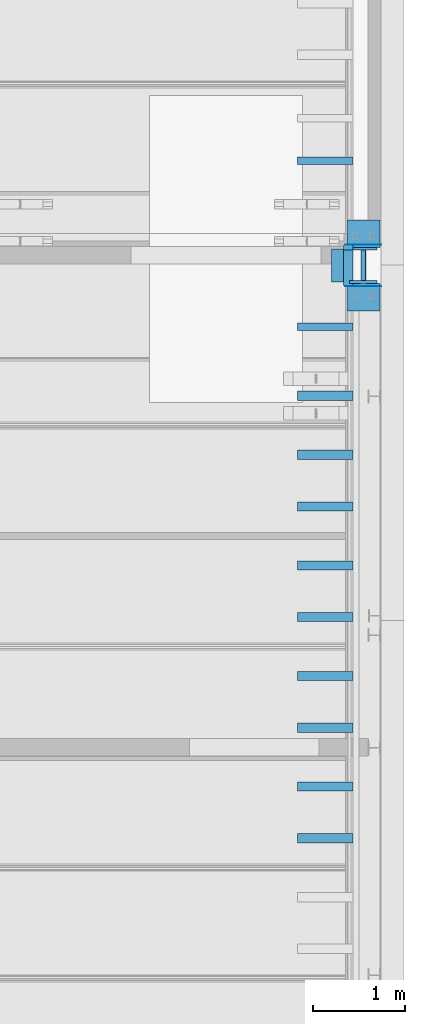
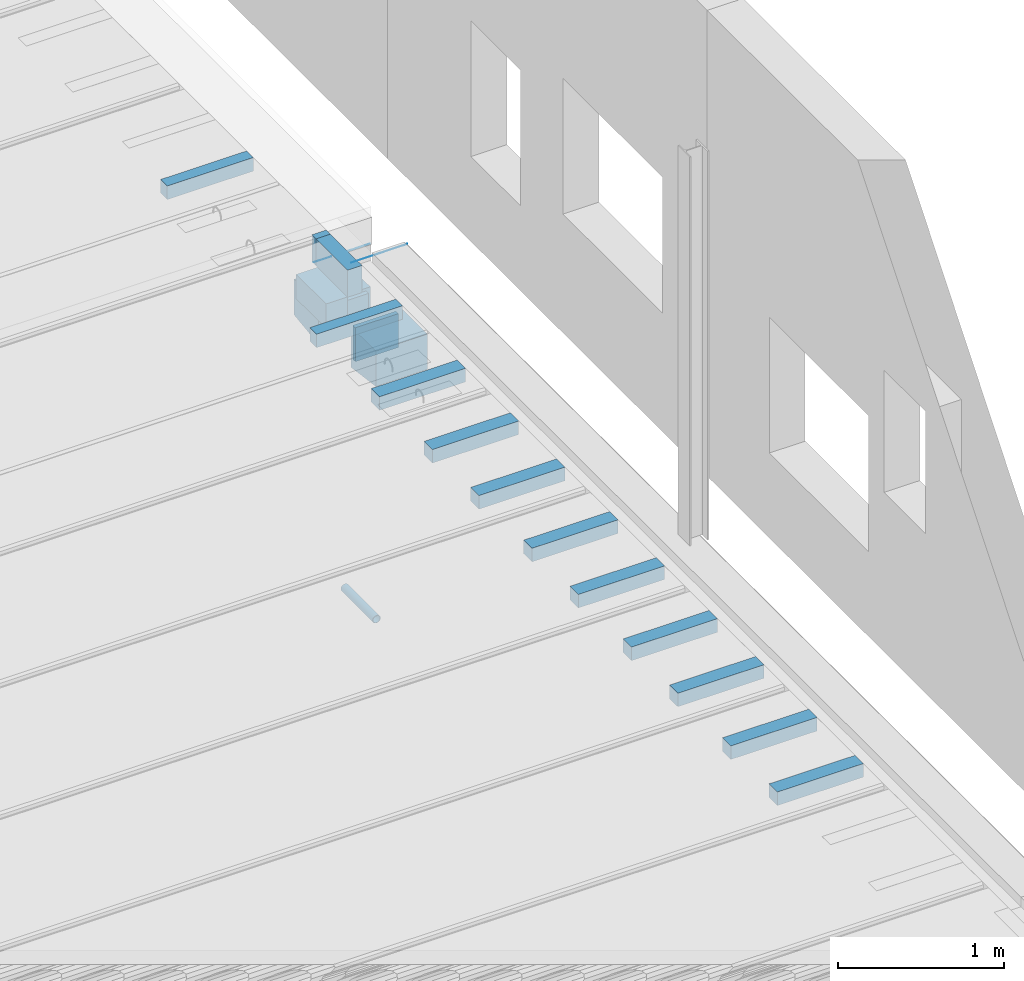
# One storey, part 18 of 230: 22 beams.
"""IFC4X3_ADD2 building model written with IfcOpenShell, lengths in millimetres."""

from ifc_helpers import new_model, entity, si_unit, direction, frame, frame_2d, origin_with_axes, place, context, subcontext, project, spatial, rectangle, hollow_circle, extrude, material, element, save


model = new_model("IFC4X3_ADD2")

# Units and contexts
model_context = context("Model", 3, precision=1e-05, world=origin_with_axes(), true_north=direction((0.0, 1.0)))
body_context = subcontext(model_context, "Body", "Model", "MODEL_VIEW")
ifc_project = project(units=[si_unit("LENGTHUNIT", "METRE", prefix="MILLI"), si_unit("AREAUNIT", "SQUARE_METRE"), si_unit("VOLUMEUNIT", "CUBIC_METRE"), si_unit("PLANEANGLEUNIT", "RADIAN"), si_unit("TIMEUNIT", "SECOND"), si_unit("MASSUNIT", "GRAM")], contexts=[model_context])

# Site, building, storey
site_placement = place(None, origin_with_axes())
site = spatial("IfcSite", under=ifc_project, at=site_placement, Name="Site", CompositionType="ELEMENT")
building_placement = place(site_placement, origin_with_axes())
building = spatial("IfcBuilding", under=site, at=building_placement, Name="IFC Building Story")
storey_placement = place(building_placement, origin_with_axes())
storey = spatial("IfcBuildingStorey", under=building, at=storey_placement, Name="ETAGE 00 (0)", Elevation=0.0)

# Beams
ifc_material_1 = material(Name="STEEL/Accessory_C50/60 64192")
for number, where, z_axis, x_axis, name in (
    (1, (48131.188, -150.0, 3610.0), (1.0, 0.0, 0.0), (0.0, 0.0, 1.0), "BEK1"),
    (2, (48491.18799999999, 540.0, 3540.0), (-1.0, 0.0, 0.0), (0.0, 0.0, 1.0), "BEK1"),
):
    element("IfcBeam", number, at=place(storey_placement, frame(where, z_axis=z_axis, x_axis=x_axis)), inside=storey, material=ifc_material_1, Name=name, ObjectType="CORBEL300-300-260", context=body_context, shape_type="SweptSolid", body=[
        extrude(entity("IfcTrapeziumProfileDef", "AREA", None, entity("IfcAxis2Placement2D", entity("IfcCartesianPoint", [0.0, 5.95523630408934e-12]), entity("IfcDirection", [1.0, 0.0])), 300.0, 260.0, 300.0, 40.0), origin_with_axes(), (0.0, 0.0, 1.0), 359.9999999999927),
    ])
beam_1_placement = place(storey_placement, frame((48041.188, 375.0, 3875.0), z_axis=(0.0, -1.0, 0.0), x_axis=(0.0, 0.0, 1.0)))
element("IfcBeam", 3, at=beam_1_placement, inside=storey, material=ifc_material_1, Name="BEK1", ObjectType="CORBEL200-150-180", context=body_context, shape_type="SweptSolid", body=[
    extrude(entity("IfcTrapeziumProfileDef", "AREA", None, entity("IfcAxis2Placement2D", entity("IfcCartesianPoint", [0.0, 5.95523630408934e-12]), entity("IfcDirection", [1.0, 0.0])), 200.0, 180.0, 150.0, 19.9999999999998), origin_with_axes(), (0.0, 0.0, 1.0), 360.0),
])
ifc_material_2 = material(Name="STEEL/Accessory_invisible")
beam_2_placement = place(storey_placement, frame((48195.68900000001, 385.000018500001, 4099.9999909), z_axis=(-1.0, 0.0, 0.0), x_axis=(0.0, 0.0, 1.0)))
element("IfcBeam", 4, at=beam_2_placement, inside=storey, material=ifc_material_2, Name="ES32", ObjectType="200*50", context=body_context, shape_type="SweptSolid", body=[
    extrude(rectangle(XDim=200.0, YDim=50.0, at=frame_2d((0.0, 5.95523630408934e-12), x_axis=(1.0, 0.0))), origin_with_axes(), (0.0, 0.0, 1.0), 100.0000000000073),
])
beam_3_placement = place(storey_placement, frame((48195.68900000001, 1330.0, 4150.0), z_axis=(-1.0, 0.0, 0.0), x_axis=(0.0, 0.0, -1.0)))
element("IfcBeam", 5, at=beam_3_placement, inside=storey, material=ifc_material_2, Name="ES7", ObjectType="100*80", context=body_context, shape_type="SweptSolid", body=[
    extrude(rectangle(XDim=100.0, YDim=80.0, at=frame_2d((0.0, 5.95523630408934e-12), x_axis=(1.0, 0.0))), origin_with_axes(), (0.0, 0.0, 1.0), 600.0000000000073),
])
beam_4_placement = place(storey_placement, frame((48095.6889999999, 170.0, 4100.0), z_axis=(1.0, 0.0, 0.0), x_axis=(0.0, 0.0, -1.0)))
element("IfcBeam", 6, at=beam_4_placement, inside=storey, material=ifc_material_2, Name="ES32", ObjectType="200*380", context=body_context, shape_type="SweptSolid", body=[
    extrude(rectangle(XDim=200.0, YDim=380.000000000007, at=frame_2d((0.0, 5.95523630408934e-12), x_axis=(1.0, 0.0))), origin_with_axes(), (0.0, 0.0, 1.0), 99.99999999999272),
])
beam_5_placement = place(storey_placement, frame((48195.68900000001, -470.0, 4150.0), z_axis=(-1.0, 0.0, 0.0), x_axis=(0.0, 0.0, -1.0)))
element("IfcBeam", 7, at=beam_5_placement, inside=storey, material=ifc_material_2, Name="ES7", ObjectType="100*80", context=body_context, shape_type="SweptSolid", body=[
    extrude(rectangle(XDim=100.0, YDim=80.0, at=frame_2d((0.0, 5.95523630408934e-12), x_axis=(1.0, 0.0))), origin_with_axes(), (0.0, 0.0, 1.0), 600.0000000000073),
])
for number, where, z_axis, x_axis, name in (
    (8, (48196.18900000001, -1860.0, 4150.0), (-1.0, 0.0, 0.0), (0.0, -1.0, 0.0), "ES7"),
    (9, (48196.18900000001, -2420.0, 4150.0), (-1.0, 0.0, 0.0), (0.0, -1.0, 0.0), "ES7"),
    (10, (48196.18900000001, -3060.0, 4150.0), (-1.0, 0.0, 0.0), (0.0, -1.0, 0.0), "ES7"),
    (11, (48196.18900000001, -3620.0, 4150.0), (-1.0, 0.0, 0.0), (0.0, -1.0, 0.0), "ES7"),
    (12, (48196.18900000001, -4260.0, 4150.0), (-1.0, 0.0, 0.0), (0.0, -1.0, 0.0), "ES7"),
    (13, (48196.18900000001, -4820.0, 4150.0), (-1.0, 0.0, 0.0), (0.0, -1.0, 0.0), "ES7"),
    (14, (48196.18900000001, -5460.0, 4150.0), (-1.0, 0.0, 0.0), (0.0, -1.0, 0.0), "ES7"),
    (15, (48196.18900000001, -6020.0, 4150.0), (-1.0, 0.0, 0.0), (0.0, -1.0, 0.0), "ES7"),
    (16, (48196.18900000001, -1219.9999815, 4150.0), (-1.0, 0.0, 0.0), (0.0, -1.0, 0.0), "ES7"),
):
    element("IfcBeam", number, at=place(storey_placement, frame(where, z_axis=z_axis, x_axis=x_axis)), inside=storey, material=ifc_material_2, Name=name, ObjectType="100*100", context=body_context, shape_type="SweptSolid", body=[
        extrude(rectangle(XDim=100.0, YDim=99.99999999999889, at=frame_2d((0.0, 5.95523630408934e-12), x_axis=(1.0, 0.0))), origin_with_axes(), (0.0, 0.0, 1.0), 600.0),
    ])
ifc_material_3 = material(Name="STEEL/Accessory_EPS")
for number, where, z_axis, x_axis, name in (
    (17, (48461.188, 15.0, 3615.00000000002), (-1.0, 0.0, 0.0), (0.0, 0.0, -1.0), "POL4"),
    (18, (48461.188, 375.0, 3545.00000000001), (-1.0, 0.0, 0.0), (0.0, 0.0, -1.0), "POL4"),
):
    element("IfcBeam", number, at=place(storey_placement, frame(where, z_axis=z_axis, x_axis=x_axis)), inside=storey, material=ifc_material_3, Name=name, ObjectType="30*300", context=body_context, shape_type="SweptSolid", body=[
        extrude(rectangle(XDim=250.0, YDim=30.0000000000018, at=frame_2d((0.0, 5.95523630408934e-12), x_axis=(1.0, 0.0))), origin_with_axes(), (0.0, 0.0, 1.0), 300.0),
    ])
ifc_material_4 = material(Name="STEEL/Accessory_PVC")
beam_6_placement = place(storey_placement, frame((48311.188, 3.00000005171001, 1540.0), z_axis=(0.0, 1.0, 0.0), x_axis=(1.0, 0.0, 0.0)))
element("IfcBeam", 19, at=beam_6_placement, inside=storey, material=ifc_material_4, Name="PS13", ObjectType="O56*3", context=body_context, shape_type="SweptSolid", body=[
    extrude(hollow_circle(Radius=28.0, WallThickness=3.0, at=frame_2d((0.0, 5.95523630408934e-12), x_axis=(1.0, 0.0))), origin_with_axes(), (0.0, 0.0, 1.0), 384.0),
])
beam_7_placement = place(storey_placement, frame((48235.586, 420.0, 3984.5), z_axis=(-1.0, 0.0, 0.0), x_axis=(0.0, 1.0, 0.0)))
element("IfcBeam", 20, at=beam_7_placement, inside=storey, material=ifc_material_2, Name="ZW3", ObjectType="1*1 3", context=body_context, shape_type="SweptSolid", body=[
    extrude(rectangle(XDim=0.9999999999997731, YDim=0.9999999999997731, at=frame_2d((0.0, 5.95523630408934e-12), x_axis=(1.0, 0.0))), origin_with_axes(), (0.0, 0.0, 1.0), 119.9000000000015),
])
beam_8_placement = place(storey_placement, frame((48505.686, 420.0, 3984.5), z_axis=(-1.0, 0.0, 0.0), x_axis=(0.0, 1.0, 0.0)))
element("IfcBeam", 21, at=beam_8_placement, inside=storey, material=ifc_material_2, Name="ZW3", ObjectType="1*1 3", context=body_context, shape_type="SweptSolid", body=[
    extrude(rectangle(XDim=0.9999999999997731, YDim=0.9999999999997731, at=frame_2d((0.0, 5.95523630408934e-12), x_axis=(1.0, 0.0))), origin_with_axes(), (0.0, 0.0, 1.0), 270.0000000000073),
])
beam_9_placement = place(storey_placement, frame((48505.68599999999, -30.0, 4254.5), z_axis=(-1.0, 0.0, 0.0), x_axis=(0.0, 1.0, 0.0)))
element("IfcBeam", 22, at=beam_9_placement, inside=storey, material=ifc_material_2, Name="ZW3", ObjectType="1*1 3", context=body_context, shape_type="SweptSolid", body=[
    extrude(rectangle(XDim=0.9999999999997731, YDim=0.9999999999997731, at=frame_2d((0.0, 5.95523630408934e-12), x_axis=(1.0, 0.0))), origin_with_axes(), (0.0, 0.0, 1.0), 389.8999999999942),
])

save(model, "model.ifc")
